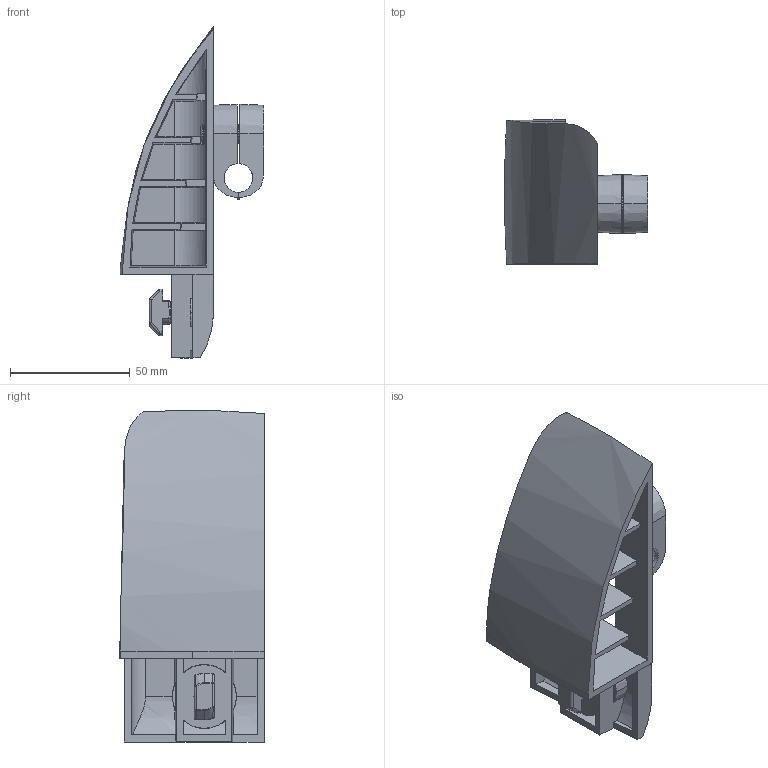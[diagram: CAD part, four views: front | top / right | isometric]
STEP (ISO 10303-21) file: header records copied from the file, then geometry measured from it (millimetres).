
FILE_DESCRIPTION (( 'STEP AP214' ), '1' );
FILE_NAME ('067RCB1BRU004.STEP', '2024-09-23T11:23:22', ( '' ), ( '' ), 'SwSTEP 2.0', 'SolidWorks 2023', '' );
FILE_SCHEMA (( 'AUTOMOTIVE_DESIGN' ));
Length unit declared in the file: millimetre
Products named in the file (9): 067RCB1BRU004; 067RCB1COS005; 4DIN933M08020M_0; 067RCB1BRS004; 067RCB1BRU004(1); 067RCB1BRU004(2); 096HK1030M0820; 4DIN934M08MS01; 4DIN125AM8M
Assembly tree (9 placements, depth 4):
  067RCB1BRU004
    067RCB1BRU004(2)
      067RCB1BRU004(1)
        067RCB1COS005
        4DIN125AM8M  x2
        096HK1030M0820
        067RCB1BRS004
        4DIN933M08020M_0
        4DIN934M08MS01
Bounding box: 59.8 x 60.3 x 138.65 mm (x, y, z)
Volume: 85504.3 mm3; surface area: 58004.5 mm2
Topology: 8 solids, 8 shells, 558 faces, 1472 edges, 926 vertices
Faces by surface type: plane 227, cone 147, cylinder 135, bspline 47, torus 2
Entity records: 22512 total; most frequent: CARTESIAN_POINT 9365, ORIENTED_EDGE 2900, DIRECTION 2511, EDGE_CURVE 1450, VERTEX_POINT 918, AXIS2_PLACEMENT_3D 902, VECTOR 707, LINE 707
